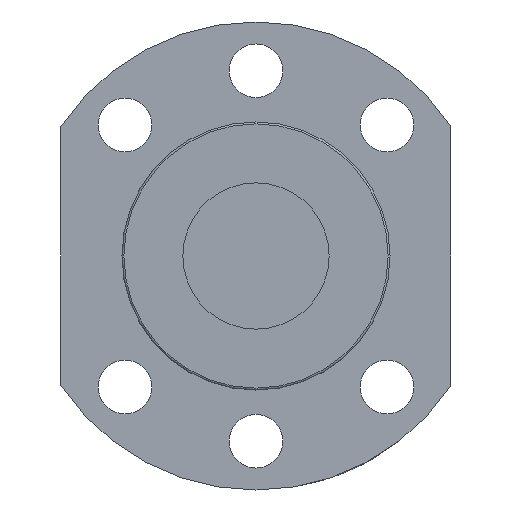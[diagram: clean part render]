
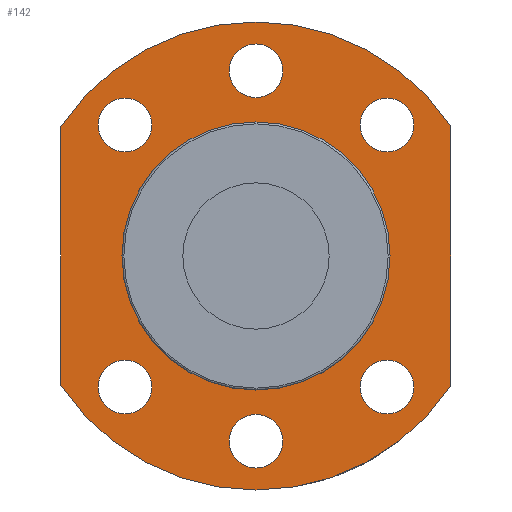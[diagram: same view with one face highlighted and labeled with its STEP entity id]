
A CAD part, front view. The second image highlights one B-rep face of the part: STEP entity #142.
In plain terms, the highlighted planar face has unit normal (0, -1, 0).
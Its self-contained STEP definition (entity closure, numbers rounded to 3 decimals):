
#52=LINE('',#3742,#64);
#56=LINE('',#3751,#68);
#64=VECTOR('',#776,1.);
#68=VECTOR('',#782,1.);
#97=PLANE('',#662);
#142=ADVANCED_FACE('',(#219,#220,#221,#222,#223,#224,#225,#226),#97,.F.);
#219=FACE_BOUND('',#301,.T.);
#220=FACE_BOUND('',#302,.T.);
#221=FACE_BOUND('',#303,.T.);
#222=FACE_BOUND('',#304,.T.);
#223=FACE_BOUND('',#305,.T.);
#224=FACE_BOUND('',#306,.T.);
#225=FACE_BOUND('',#307,.T.);
#226=FACE_BOUND('',#308,.T.);
#301=EDGE_LOOP('',(#422));
#302=EDGE_LOOP('',(#423));
#303=EDGE_LOOP('',(#424));
#304=EDGE_LOOP('',(#425));
#305=EDGE_LOOP('',(#426,#427,#428,#429));
#306=EDGE_LOOP('',(#430));
#307=EDGE_LOOP('',(#431));
#308=EDGE_LOOP('',(#432));
#422=ORIENTED_EDGE('',*,*,#556,.F.);
#423=ORIENTED_EDGE('',*,*,#532,.T.);
#424=ORIENTED_EDGE('',*,*,#538,.T.);
#425=ORIENTED_EDGE('',*,*,#540,.T.);
#426=ORIENTED_EDGE('',*,*,#544,.F.);
#427=ORIENTED_EDGE('',*,*,#555,.T.);
#428=ORIENTED_EDGE('',*,*,#548,.T.);
#429=ORIENTED_EDGE('',*,*,#552,.T.);
#430=ORIENTED_EDGE('',*,*,#536,.F.);
#431=ORIENTED_EDGE('',*,*,#534,.F.);
#432=ORIENTED_EDGE('',*,*,#530,.F.);
#472=VERTEX_POINT('',#3708);
#474=VERTEX_POINT('',#3713);
#476=VERTEX_POINT('',#3718);
#478=VERTEX_POINT('',#3723);
#480=VERTEX_POINT('',#3728);
#482=VERTEX_POINT('',#3733);
#486=VERTEX_POINT('',#3741);
#487=VERTEX_POINT('',#3743);
#490=VERTEX_POINT('',#3750);
#491=VERTEX_POINT('',#3752);
#494=VERTEX_POINT('',#3769);
#530=EDGE_CURVE('',#472,#472,#576,.T.);
#532=EDGE_CURVE('',#474,#474,#578,.T.);
#534=EDGE_CURVE('',#476,#476,#580,.T.);
#536=EDGE_CURVE('',#478,#478,#582,.T.);
#538=EDGE_CURVE('',#480,#480,#584,.T.);
#540=EDGE_CURVE('',#482,#482,#586,.T.);
#544=EDGE_CURVE('',#486,#487,#52,.T.);
#548=EDGE_CURVE('',#491,#490,#56,.T.);
#552=EDGE_CURVE('',#490,#487,#590,.T.);
#555=EDGE_CURVE('',#486,#491,#593,.T.);
#556=EDGE_CURVE('',#494,#494,#594,.T.);
#576=CIRCLE('',#630,2.75);
#578=CIRCLE('',#633,2.75);
#580=CIRCLE('',#636,2.75);
#582=CIRCLE('',#639,2.75);
#584=CIRCLE('',#642,2.75);
#586=CIRCLE('',#645,2.75);
#590=CIRCLE('',#653,24.);
#593=CIRCLE('',#659,24.);
#594=CIRCLE('',#661,13.55);
#630=AXIS2_PLACEMENT_3D('',#3707,#738,#739);
#633=AXIS2_PLACEMENT_3D('',#3712,#744,#745);
#636=AXIS2_PLACEMENT_3D('',#3717,#750,#751);
#639=AXIS2_PLACEMENT_3D('',#3722,#756,#757);
#642=AXIS2_PLACEMENT_3D('',#3727,#762,#763);
#645=AXIS2_PLACEMENT_3D('',#3732,#768,#769);
#653=AXIS2_PLACEMENT_3D('',#3760,#792,#793);
#659=AXIS2_PLACEMENT_3D('',#3766,#804,#805);
#661=AXIS2_PLACEMENT_3D('',#3768,#808,#809);
#662=AXIS2_PLACEMENT_3D('',#3770,#810,#811);
#738=DIRECTION('',(0.,-1.,0.));
#739=DIRECTION('',(0.,0.,1.));
#744=DIRECTION('',(0.,1.,0.));
#745=DIRECTION('',(0.,0.,1.));
#750=DIRECTION('',(0.,-1.,0.));
#751=DIRECTION('',(0.,0.,1.));
#756=DIRECTION('',(0.,-1.,0.));
#757=DIRECTION('',(0.,0.,1.));
#762=DIRECTION('',(0.,1.,0.));
#763=DIRECTION('',(0.,0.,1.));
#768=DIRECTION('',(0.,1.,0.));
#769=DIRECTION('',(0.,0.,1.));
#776=DIRECTION('',(0.,0.,1.));
#782=DIRECTION('',(0.,0.,1.));
#792=DIRECTION('',(0.,-1.,0.));
#793=DIRECTION('',(0.,0.,-1.));
#804=DIRECTION('',(0.,-1.,0.));
#805=DIRECTION('',(0.,0.,-1.));
#808=DIRECTION('',(0.,-1.,0.));
#809=DIRECTION('',(0.,0.,-1.));
#810=DIRECTION('',(0.,1.,0.));
#811=DIRECTION('',(0.,0.,1.));
#3707=CARTESIAN_POINT('',(13.435,-39.25,-13.435));
#3708=CARTESIAN_POINT('',(13.435,-39.25,-10.685));
#3712=CARTESIAN_POINT('',(0.,-39.25,19.));
#3713=CARTESIAN_POINT('',(0.,-39.25,21.75));
#3717=CARTESIAN_POINT('',(0.,-39.25,-19.));
#3718=CARTESIAN_POINT('',(0.,-39.25,-16.25));
#3722=CARTESIAN_POINT('',(-13.435,-39.25,13.435));
#3723=CARTESIAN_POINT('',(-13.435,-39.25,16.185));
#3727=CARTESIAN_POINT('',(13.435,-39.25,13.435));
#3728=CARTESIAN_POINT('',(13.435,-39.25,16.185));
#3732=CARTESIAN_POINT('',(-13.435,-39.25,-13.435));
#3733=CARTESIAN_POINT('',(-13.435,-39.25,-10.685));
#3741=CARTESIAN_POINT('',(-20.,-39.25,-13.266));
#3742=CARTESIAN_POINT('',(-20.,-39.25,24.));
#3743=CARTESIAN_POINT('',(-20.,-39.25,13.266));
#3750=CARTESIAN_POINT('',(20.,-39.25,13.266));
#3751=CARTESIAN_POINT('',(20.,-39.25,24.));
#3752=CARTESIAN_POINT('',(20.,-39.25,-13.266));
#3760=CARTESIAN_POINT('',(0.,-39.25,0.));
#3766=CARTESIAN_POINT('',(0.,-39.25,0.));
#3768=CARTESIAN_POINT('',(0.,-39.25,0.));
#3769=CARTESIAN_POINT('',(0.,-39.25,-13.55));
#3770=CARTESIAN_POINT('',(0.,-39.25,24.));
